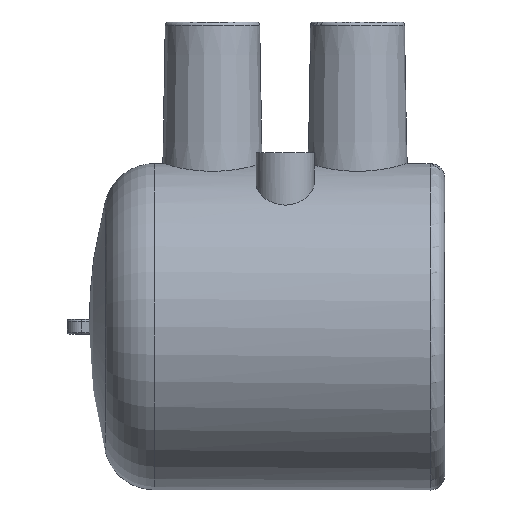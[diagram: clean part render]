
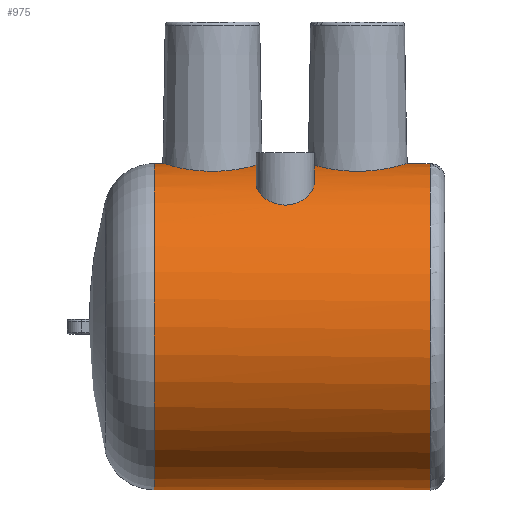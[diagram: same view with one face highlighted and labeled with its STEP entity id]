
A CAD part, front view. The second image highlights one B-rep face of the part: STEP entity #975.
In plain terms, the highlighted cylindrical face has radius 22.5 mm (diameter 45 mm), a partial arc.
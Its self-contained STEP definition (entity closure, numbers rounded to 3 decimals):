
#31=LINE('',#1578,#70);
#32=LINE('',#1592,#71);
#70=VECTOR('',#1227,1000.);
#71=VECTOR('',#1230,1000.);
#111=CYLINDRICAL_SURFACE('',#1069,22.5);
#176=CIRCLE('',#1070,22.5);
#177=CIRCLE('',#1071,22.5);
#261=ORIENTED_EDGE('',*,*,#535,.F.);
#262=ORIENTED_EDGE('',*,*,#536,.T.);
#263=ORIENTED_EDGE('',*,*,#537,.T.);
#264=ORIENTED_EDGE('',*,*,#538,.T.);
#265=ORIENTED_EDGE('',*,*,#539,.T.);
#266=ORIENTED_EDGE('',*,*,#540,.T.);
#267=ORIENTED_EDGE('',*,*,#541,.F.);
#268=ORIENTED_EDGE('',*,*,#530,.F.);
#269=ORIENTED_EDGE('',*,*,#542,.T.);
#530=EDGE_CURVE('',#670,#670,#755,.T.);
#535=EDGE_CURVE('',#675,#676,#176,.T.);
#536=EDGE_CURVE('',#675,#677,#31,.F.);
#537=EDGE_CURVE('',#677,#678,#756,.T.);
#538=EDGE_CURVE('',#678,#679,#177,.F.);
#539=EDGE_CURVE('',#679,#680,#757,.T.);
#540=EDGE_CURVE('',#680,#676,#32,.T.);
#541=EDGE_CURVE('',#681,#681,#758,.T.);
#542=EDGE_CURVE('',#682,#682,#759,.T.);
#670=VERTEX_POINT('',#1560);
#675=VERTEX_POINT('',#1576);
#676=VERTEX_POINT('',#1577);
#677=VERTEX_POINT('',#1579);
#678=VERTEX_POINT('',#1584);
#679=VERTEX_POINT('',#1586);
#680=VERTEX_POINT('',#1591);
#681=VERTEX_POINT('',#1612);
#682=VERTEX_POINT('',#1632);
#755=B_SPLINE_CURVE_WITH_KNOTS('',3,(#1541,#1542,#1543,#1544,#1545,#1546,
#1547,#1548,#1549,#1550,#1551,#1552,#1553,#1554,#1555,#1556,#1557,#1558,
#1559),.UNSPECIFIED.,.T.,.F.,(1,1,1,1,1,1,1,1,1,1,1,1,1,1,1,1,1,1,1,1,1,
1,1),(-0.008,-0.005,-0.003,0.,
0.003,0.005,0.008,0.011,
0.013,0.016,0.019,0.022,
0.024,0.027,0.03,0.032,
0.035,0.038,0.04,0.043,
0.046,0.048,0.051),.UNSPECIFIED.);
#756=B_SPLINE_CURVE_WITH_KNOTS('',3,(#1580,#1581,#1582,#1583),
 .UNSPECIFIED.,.F.,.F.,(4,4),(0.,0.),.UNSPECIFIED.);
#757=B_SPLINE_CURVE_WITH_KNOTS('',3,(#1587,#1588,#1589,#1590),
 .UNSPECIFIED.,.F.,.F.,(4,4),(0.,0.),.UNSPECIFIED.);
#758=B_SPLINE_CURVE_WITH_KNOTS('',3,(#1593,#1594,#1595,#1596,#1597,#1598,
#1599,#1600,#1601,#1602,#1603,#1604,#1605,#1606,#1607,#1608,#1609,#1610,
#1611),.UNSPECIFIED.,.T.,.F.,(1,1,1,1,1,1,1,1,1,1,1,1,1,1,1,1,1,1,1,1,1,
1,1),(-0.005,-0.003,-0.002,0.,
0.002,0.003,0.005,0.007,
0.008,0.01,0.012,0.014,
0.015,0.017,0.019,0.02,
0.022,0.024,0.025,0.027,
0.029,0.03,0.032),.UNSPECIFIED.);
#759=B_SPLINE_CURVE_WITH_KNOTS('',3,(#1613,#1614,#1615,#1616,#1617,#1618,
#1619,#1620,#1621,#1622,#1623,#1624,#1625,#1626,#1627,#1628,#1629,#1630,
#1631),.UNSPECIFIED.,.T.,.F.,(1,1,1,1,1,1,1,1,1,1,1,1,1,1,1,1,1,1,1,1,1,
1,1),(-0.008,-0.005,-0.003,0.,
0.003,0.005,0.008,0.011,
0.013,0.016,0.019,0.022,
0.024,0.027,0.03,0.032,
0.035,0.038,0.04,0.043,
0.046,0.048,0.051),.UNSPECIFIED.);
#793=EDGE_LOOP('',(#261,#262,#263,#264,#265,#266));
#794=EDGE_LOOP('',(#267));
#795=EDGE_LOOP('',(#268));
#796=EDGE_LOOP('',(#269));
#886=FACE_BOUND('',#793,.T.);
#887=FACE_BOUND('',#794,.T.);
#888=FACE_BOUND('',#795,.T.);
#889=FACE_BOUND('',#796,.T.);
#975=ADVANCED_FACE('',(#886,#887,#888,#889),#111,.T.);
#1069=AXIS2_PLACEMENT_3D('',#1574,#1223,#1224);
#1070=AXIS2_PLACEMENT_3D('',#1575,#1225,#1226);
#1071=AXIS2_PLACEMENT_3D('',#1585,#1228,#1229);
#1223=DIRECTION('',(-1.,0.,0.));
#1224=DIRECTION('',(0.,0.,1.));
#1225=DIRECTION('',(-1.,0.,0.));
#1226=DIRECTION('',(0.,0.,1.));
#1227=DIRECTION('',(-1.,0.,0.));
#1228=DIRECTION('',(1.,0.,0.));
#1229=DIRECTION('',(0.,0.,-1.));
#1230=DIRECTION('',(-1.,0.,0.));
#1541=CARTESIAN_POINT('',(-9.48,-6.57,21.527));
#1542=CARTESIAN_POINT('',(-7.171,-5.103,21.942));
#1543=CARTESIAN_POINT('',(-5.596,-2.878,22.363));
#1544=CARTESIAN_POINT('',(-4.982,-0.194,22.556));
#1545=CARTESIAN_POINT('',(-5.449,2.524,22.408));
#1546=CARTESIAN_POINT('',(-6.902,4.833,22.006));
#1547=CARTESIAN_POINT('',(-9.116,6.416,21.576));
#1548=CARTESIAN_POINT('',(-11.803,7.039,21.369));
#1549=CARTESIAN_POINT('',(-14.525,6.567,21.527));
#1550=CARTESIAN_POINT('',(-16.827,5.105,21.941));
#1551=CARTESIAN_POINT('',(-18.401,2.884,22.362));
#1552=CARTESIAN_POINT('',(-19.018,0.201,22.556));
#1553=CARTESIAN_POINT('',(-18.553,-2.523,22.408));
#1554=CARTESIAN_POINT('',(-17.095,-4.835,22.005));
#1555=CARTESIAN_POINT('',(-14.88,-6.417,21.575));
#1556=CARTESIAN_POINT('',(-12.199,-7.038,21.369));
#1557=CARTESIAN_POINT('',(-9.48,-6.57,21.527));
#1558=CARTESIAN_POINT('',(-7.171,-5.103,21.942));
#1559=CARTESIAN_POINT('',(-5.596,-2.878,22.363));
#1560=CARTESIAN_POINT('',(-7.293,-4.977,21.943));
#1574=CARTESIAN_POINT('',(-29.,0.,0.));
#1575=CARTESIAN_POINT('',(-20.,0.,0.));
#1576=CARTESIAN_POINT('',(-20.,22.466,-1.236));
#1577=CARTESIAN_POINT('',(-20.,22.466,1.236));
#1578=CARTESIAN_POINT('',(-29.,22.466,-1.236));
#1579=CARTESIAN_POINT('',(17.75,22.466,-1.236));
#1580=CARTESIAN_POINT('',(17.75,22.466,-1.236));
#1581=CARTESIAN_POINT('',(17.838,22.466,-1.236));
#1582=CARTESIAN_POINT('',(17.924,22.467,-1.214));
#1583=CARTESIAN_POINT('',(18.,22.47,-1.17));
#1584=CARTESIAN_POINT('',(18.,22.47,-1.17));
#1585=CARTESIAN_POINT('',(18.,0.,0.));
#1586=CARTESIAN_POINT('',(18.,22.47,1.17));
#1587=CARTESIAN_POINT('',(18.,22.47,1.17));
#1588=CARTESIAN_POINT('',(17.924,22.467,1.214));
#1589=CARTESIAN_POINT('',(17.838,22.466,1.236));
#1590=CARTESIAN_POINT('',(17.75,22.466,1.236));
#1591=CARTESIAN_POINT('',(17.75,22.466,1.236));
#1592=CARTESIAN_POINT('',(-29.,22.466,1.236));
#1593=CARTESIAN_POINT('',(1.819,-12.456,18.762));
#1594=CARTESIAN_POINT('',(2.091,-11.012,19.646));
#1595=CARTESIAN_POINT('',(1.816,-9.496,20.42));
#1596=CARTESIAN_POINT('',(0.94,-8.123,20.995));
#1597=CARTESIAN_POINT('',(-0.475,-7.172,21.329));
#1598=CARTESIAN_POINT('',(-2.188,-6.882,21.421));
#1599=CARTESIAN_POINT('',(-3.867,-7.327,21.279));
#1600=CARTESIAN_POINT('',(-5.185,-8.399,20.889));
#1601=CARTESIAN_POINT('',(-5.929,-9.83,20.262));
#1602=CARTESIAN_POINT('',(-6.075,-11.346,19.455));
#1603=CARTESIAN_POINT('',(-5.688,-12.758,18.556));
#1604=CARTESIAN_POINT('',(-4.836,-13.949,17.672));
#1605=CARTESIAN_POINT('',(-3.529,-14.818,16.937));
#1606=CARTESIAN_POINT('',(-1.808,-15.122,16.659));
#1607=CARTESIAN_POINT('',(-0.149,-14.667,17.071));
#1608=CARTESIAN_POINT('',(1.06,-13.714,17.857));
#1609=CARTESIAN_POINT('',(1.819,-12.456,18.762));
#1610=CARTESIAN_POINT('',(2.091,-11.012,19.646));
#1611=CARTESIAN_POINT('',(1.816,-9.496,20.42));
#1612=CARTESIAN_POINT('',(2.,-11.,19.628));
#1613=CARTESIAN_POINT('',(5.48,-6.57,21.527));
#1614=CARTESIAN_POINT('',(3.171,-5.103,21.942));
#1615=CARTESIAN_POINT('',(1.596,-2.878,22.363));
#1616=CARTESIAN_POINT('',(0.982,-0.194,22.556));
#1617=CARTESIAN_POINT('',(1.449,2.524,22.408));
#1618=CARTESIAN_POINT('',(2.902,4.833,22.006));
#1619=CARTESIAN_POINT('',(5.116,6.416,21.576));
#1620=CARTESIAN_POINT('',(7.803,7.039,21.369));
#1621=CARTESIAN_POINT('',(10.525,6.567,21.527));
#1622=CARTESIAN_POINT('',(12.827,5.105,21.941));
#1623=CARTESIAN_POINT('',(14.401,2.884,22.362));
#1624=CARTESIAN_POINT('',(15.018,0.201,22.556));
#1625=CARTESIAN_POINT('',(14.553,-2.523,22.408));
#1626=CARTESIAN_POINT('',(13.095,-4.835,22.005));
#1627=CARTESIAN_POINT('',(10.88,-6.417,21.575));
#1628=CARTESIAN_POINT('',(8.199,-7.038,21.369));
#1629=CARTESIAN_POINT('',(5.48,-6.57,21.527));
#1630=CARTESIAN_POINT('',(3.171,-5.103,21.942));
#1631=CARTESIAN_POINT('',(1.596,-2.878,22.363));
#1632=CARTESIAN_POINT('',(3.293,-4.977,21.943));
